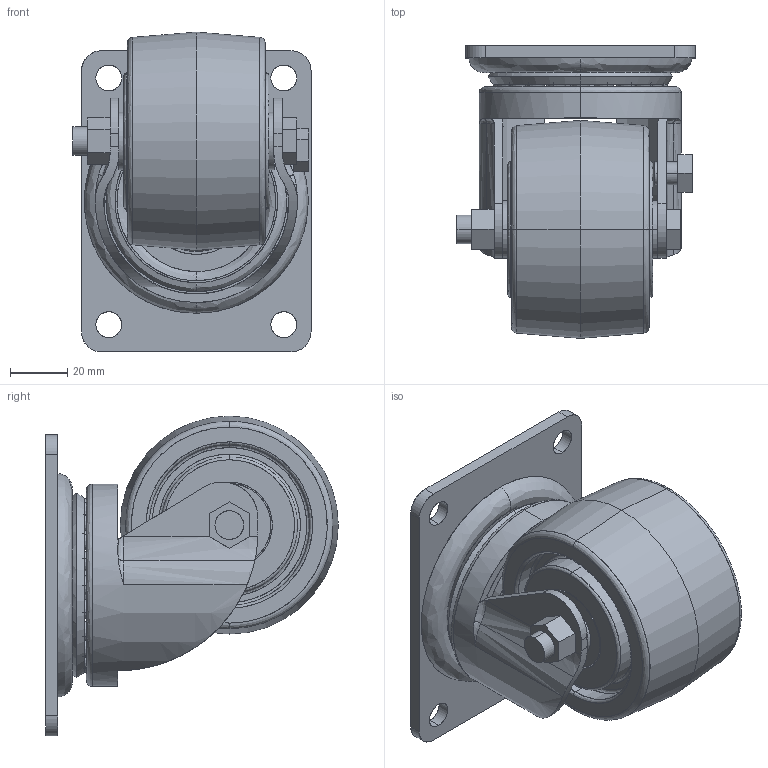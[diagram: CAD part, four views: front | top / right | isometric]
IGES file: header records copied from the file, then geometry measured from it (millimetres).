
Start section: SolidWorks IGES file using analytic representation for surfaces
Global section: file name: C:\Users\KHJ\Desktop\SH8000\SH-8030.IGS; native system: SolidWorks 2011; preprocessor: SolidWorks 2011; author: KHJ; date: 121212.002215; units: millimetre
Bounding box: 83 x 102 x 111.5 mm (x, y, z)
Surface area: 80868.9 mm2 (no closed solid volume)
Topology: 0 solids, 0 shells, 244 faces, 4992 edges, 4914 vertices
Faces by surface type: bspline 130, revolution 114
